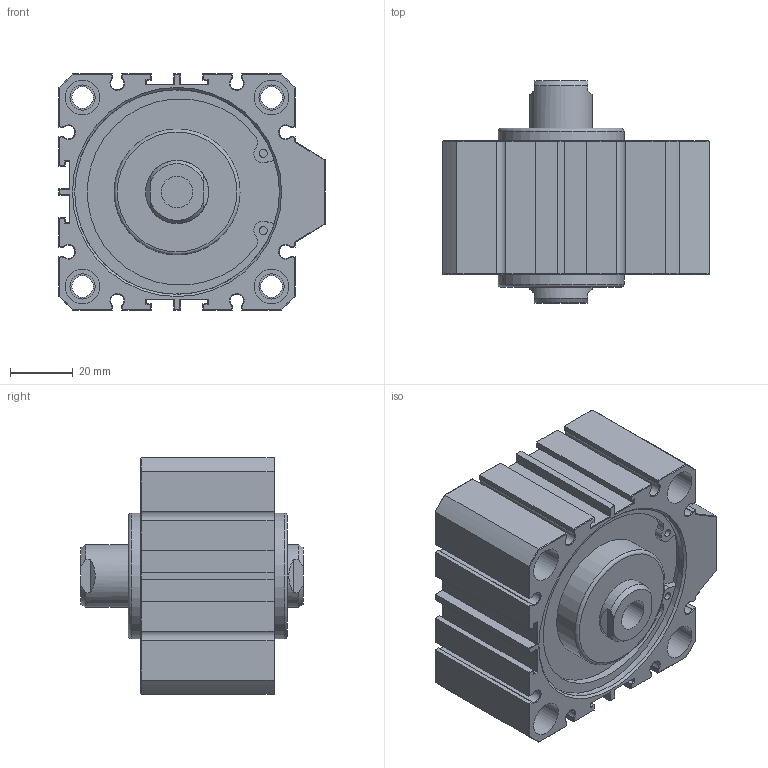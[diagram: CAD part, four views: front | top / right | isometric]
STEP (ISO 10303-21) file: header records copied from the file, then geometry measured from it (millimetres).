
FILE_DESCRIPTION(/* description */ (''),/* implementation_level */ '2;1');
FILE_NAME(/* name */ 'AJC-SW63X10N',/* time_stamp */ '2019-06-21T15:57:12+08:00',/* author */ ('JEFF HUANG'),/* organization */ ('TAIWAN AMAC CLAMP INDUSTRIAL CO., LTD.'),/* preprocessor_version */ 'ST-DEVELOPER v16.7',/* originating_system */ 'DEX',/* authorisation */ $);
FILE_SCHEMA (('AUTOMOTIVE_DESIGN {1 0 10303 214 3 1 1}'));
Length unit declared in the file: millimetre
Products named in the file (1): AJC-SW63X10N
Bounding box: 84.5 x 70.5 x 75 mm (x, y, z)
Volume: 216730.3 mm3; surface area: 41322.1 mm2
Topology: 1 solids, 1 shells, 392 faces, 878 edges, 486 vertices
Faces by surface type: plane 252, cylinder 74, cone 64, torus 2
Full cylindrical faces by diameter (mm): 2.5 x4, 6.8 x4, 8 x8, 10 x2, 11 x8, 12.301 x2, 20 x2, 40 x2, 65 x2
Entity records: 12860 total; most frequent: DIRECTION 1754, CARTESIAN_POINT 1749, ORIENTED_EDGE 1604, EDGE_CURVE 802, LINE 588, VECTOR 588, AXIS2_PLACEMENT_3D 583, VERTEX_POINT 482
